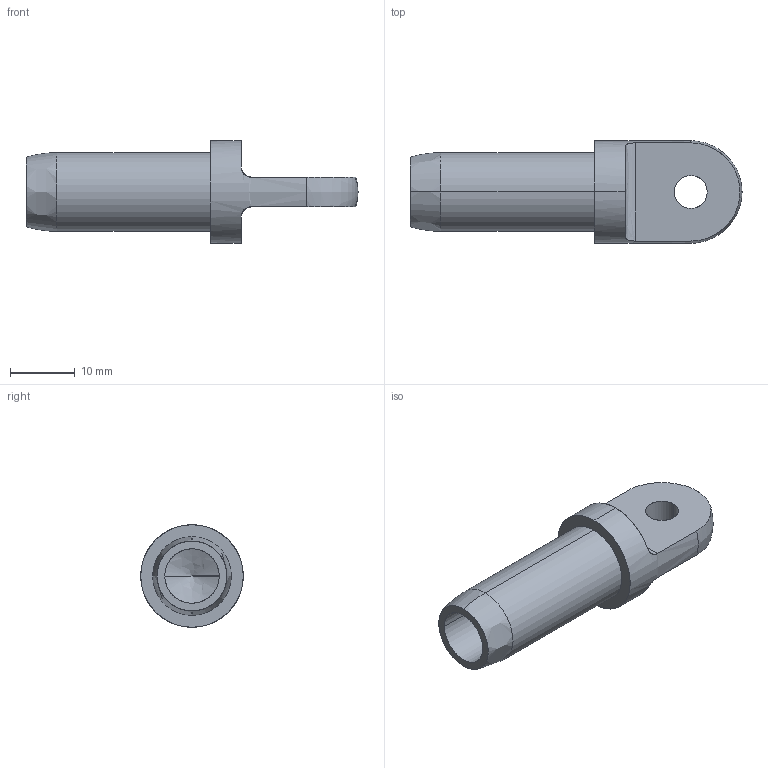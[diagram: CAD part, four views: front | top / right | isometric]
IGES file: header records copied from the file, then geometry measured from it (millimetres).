
Start section: SolidWorks IGES file using analytic representation for surfaces
Global section: file name: \\SERVER3\Design\_New Design Drive Folder List\_Design Vault\AAI\Modular Round Tube Connectors\Solidworks Models\Modular Connectors\0.500 In. Modular Connectors\Basic Models\0.500 In. Male Clevis Connector.IGS; native system: SolidWorks 2013; preprocessor: SolidWorks 2013; author: tbraun; date: 140807.144902; units: inch
Bounding box: 51.44 x 15.88 x 15.88 mm (x, y, z)
Surface area: 3128 mm2 (no closed solid volume)
Topology: 0 solids, 0 shells, 22 faces, 424 edges, 421 vertices
Faces by surface type: revolution 14, bspline 8
